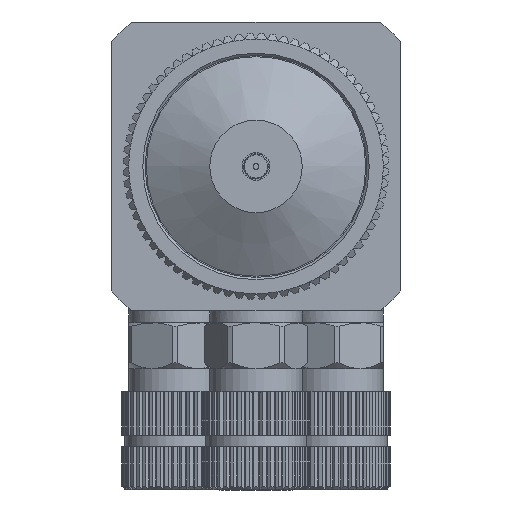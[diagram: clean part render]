
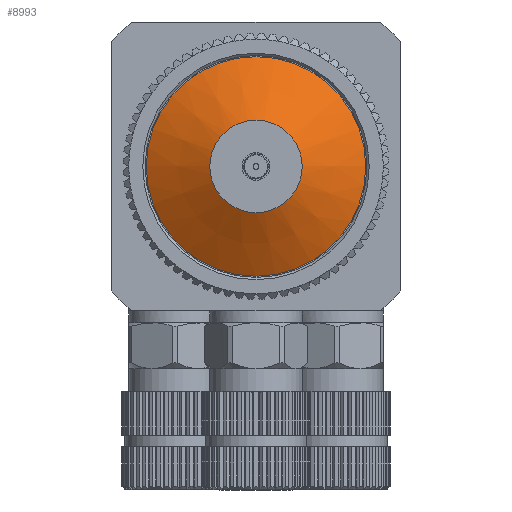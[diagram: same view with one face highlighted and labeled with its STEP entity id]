
A CAD part, front view. The second image highlights one B-rep face of the part: STEP entity #8993.
In plain terms, the highlighted conical face has half-angle 60 degrees and reference radius 9.5 mm.
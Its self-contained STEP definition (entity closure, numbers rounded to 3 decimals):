
#143 = CARTESIAN_POINT ( 'NONE',  ( -4., -28.8, 0. ) ) ;
#336 = CIRCLE ( 'NONE', #47527, 4. ) ;
#818 = DIRECTION ( 'NONE',  ( 0., 1., 0. ) ) ;
#4256 = VERTEX_POINT ( 'NONE', #143 ) ;
#7536 = AXIS2_PLACEMENT_3D ( 'NONE', #21742, #25316, #49946 ) ;
#8141 = CONICAL_SURFACE ( 'NONE', #38722, 9.5, 1.047 ) ;
#8993 = ADVANCED_FACE ( 'NONE', ( #31311, #27200 ), #8141, .T. ) ;
#9015 = EDGE_LOOP ( 'NONE', ( #53321 ) ) ;
#9289 = CARTESIAN_POINT ( 'NONE',  ( 0., -28.8, 0. ) ) ;
#21742 = CARTESIAN_POINT ( 'NONE',  ( 0., -25.625, 0. ) ) ;
#22459 = DIRECTION ( 'NONE',  ( -1., 0., 0. ) ) ;
#24118 = EDGE_CURVE ( 'NONE', #50319, #50319, #36369, .T. ) ;
#25316 = DIRECTION ( 'NONE',  ( 0., 1., 0. ) ) ;
#27200 = FACE_OUTER_BOUND ( 'NONE', #9015, .T. ) ;
#29538 = CARTESIAN_POINT ( 'NONE',  ( 9.5, -25.625, 0. ) ) ;
#31311 = FACE_BOUND ( 'NONE', #53250, .T. ) ;
#31569 = CARTESIAN_POINT ( 'NONE',  ( 0., -25.625, 0. ) ) ;
#36369 = CIRCLE ( 'NONE', #7536, 9.5 ) ;
#38722 = AXIS2_PLACEMENT_3D ( 'NONE', #31569, #48253, #39505 ) ;
#39505 = DIRECTION ( 'NONE',  ( -1., 0., 0. ) ) ;
#42951 = ORIENTED_EDGE ( 'NONE', *, *, #54181, .T. ) ;
#47527 = AXIS2_PLACEMENT_3D ( 'NONE', #9289, #818, #22459 ) ;
#48253 = DIRECTION ( 'NONE',  ( 0., 1., 0. ) ) ;
#49946 = DIRECTION ( 'NONE',  ( 1., 0., 0. ) ) ;
#50319 = VERTEX_POINT ( 'NONE', #29538 ) ;
#53250 = EDGE_LOOP ( 'NONE', ( #42951 ) ) ;
#53321 = ORIENTED_EDGE ( 'NONE', *, *, #24118, .F. ) ;
#54181 = EDGE_CURVE ( 'NONE', #4256, #4256, #336, .T. ) ;
